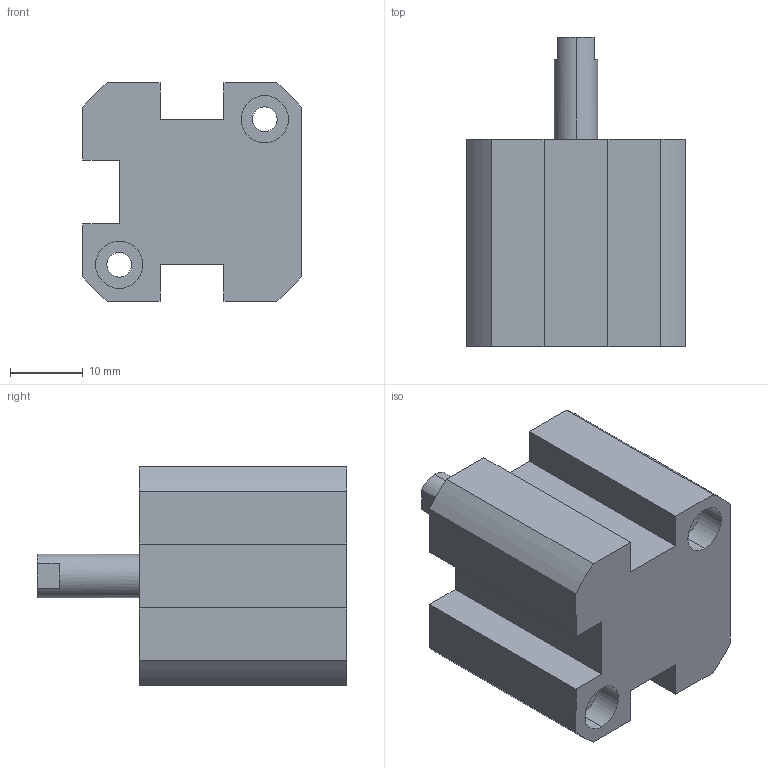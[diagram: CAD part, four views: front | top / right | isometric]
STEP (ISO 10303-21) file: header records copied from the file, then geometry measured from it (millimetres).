
FILE_DESCRIPTION (( 'STEP AP203' ), '1' );
FILE_NAME ('XC#0-16-10.STEP', '2016-05-23T06:46:32', ( '' ), ( '' ), 'SwSTEP 2.0', 'SolidWorks 2014', '' );
FILE_SCHEMA (( 'CONFIG_CONTROL_DESIGN' ));
Length unit declared in the file: millimetre
Products named in the file (1): XC#0-16-10
Bounding box: 30 x 42.5 x 30 mm (x, y, z)
Volume: 20273.7 mm3; surface area: 6943.2 mm2
Topology: 1 solids, 1 shells, 73 faces, 181 edges, 117 vertices
Faces by surface type: cylinder 37, plane 32, cone 4
Entity records: 2251 total; most frequent: DIRECTION 404, CARTESIAN_POINT 368, ORIENTED_EDGE 354, EDGE_CURVE 177, AXIS2_PLACEMENT_3D 153, VERTEX_POINT 117, VECTOR 98, LINE 98
